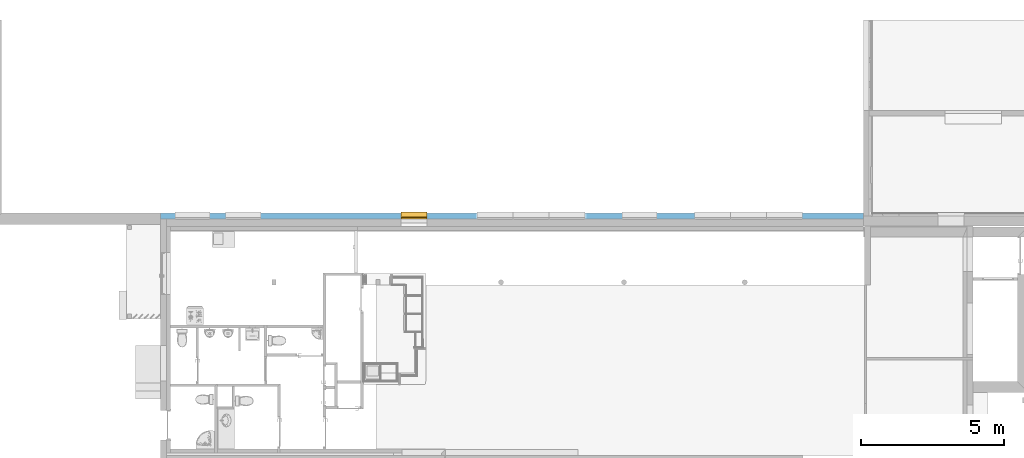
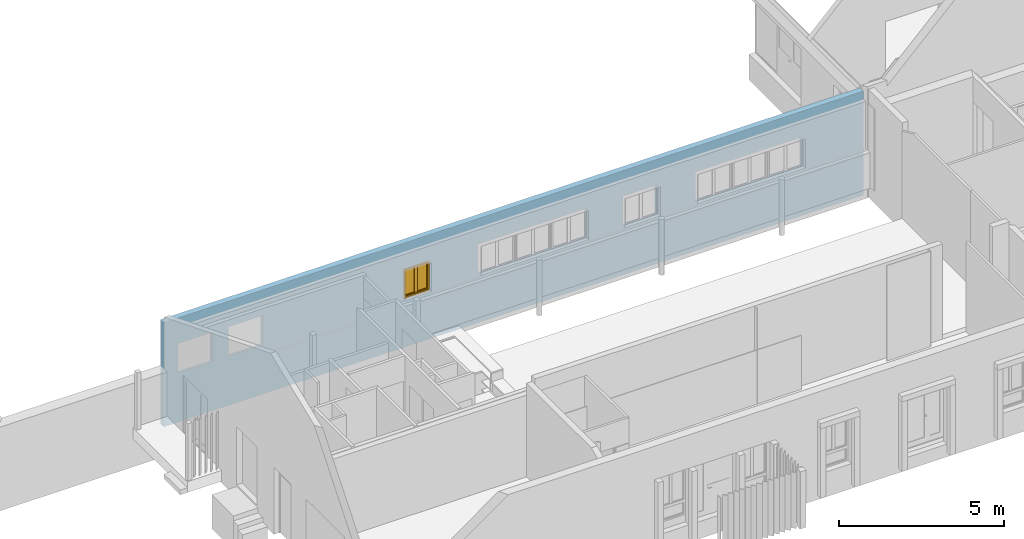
# One storey, part 24 of 34: 1 window, 16 openings, plus 1 element that does not belong to this part.
"""IFC2X3 building model written with IfcOpenShell, lengths in metres."""

from ifc_helpers import new_model, entity, si_unit, converted_unit, derived_unit, money_unit, direction, frame, origin_with_axes, origin_2d_with_axis, place, context, subcontext, project, spatial, polyline, rectangle, outline, extrude, clip, halfspace, open_shell, faceted_brep, surface_model, material, layer, layer_set, layer_usage, type_object, element, fill, save


model = new_model("IFC2X3")

# Units and contexts
model_context = context("Model", 3, precision=1e-05, world=origin_with_axes(), true_north=direction((0.0, 1.0)))
body_context = subcontext(model_context, "Body", "Model", "MODEL_VIEW")
ifc_project = project(units=[si_unit("LENGTHUNIT", "METRE"), si_unit("AREAUNIT", "SQUARE_METRE"), si_unit("VOLUMEUNIT", "CUBIC_METRE"), converted_unit("PLANEANGLEUNIT", "DEGREE", entity("IfcPlaneAngleMeasure", 0.0174532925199), si_unit("PLANEANGLEUNIT", "RADIAN"), dimensions=[0, 0, 0, 0, 0, 0, 0]), money_unit("CHF"), converted_unit("TIMEUNIT", "Year", entity("IfcTimeMeasure", 31556926.0), si_unit("TIMEUNIT", "SECOND"), dimensions=[0, 0, 1, 0, 0, 0, 0]), si_unit("MASSUNIT", "GRAM", prefix="KILO"), si_unit("THERMODYNAMICTEMPERATUREUNIT", "DEGREE_CELSIUS"), si_unit("LUMINOUSINTENSITYUNIT", "LUMEN"), si_unit("ENERGYUNIT", "JOULE", prefix="MEGA"), derived_unit("THERMALCONDUCTANCEUNIT", [(si_unit("POWERUNIT", "WATT"), 1), (si_unit("LENGTHUNIT", "METRE"), -1), (si_unit("THERMODYNAMICTEMPERATUREUNIT", "KELVIN"), -1)]), derived_unit("SPECIFICHEATCAPACITYUNIT", [(si_unit("ENERGYUNIT", "JOULE"), 1), (si_unit("MASSUNIT", "GRAM", prefix="KILO"), -1), (si_unit("THERMODYNAMICTEMPERATUREUNIT", "KELVIN"), -1)]), derived_unit("MASSDENSITYUNIT", [(si_unit("MASSUNIT", "GRAM", prefix="KILO"), 1), (si_unit("VOLUMEUNIT", "CUBIC_METRE"), -1)])], contexts=[model_context])

# Site, building, storey
site_placement = place(None, origin_with_axes())
site = spatial("IfcSite", under=ifc_project, at=site_placement, Name="Site", CompositionType="ELEMENT")
building_placement = place(site_placement, origin_with_axes())
building = spatial("IfcBuilding", under=site, at=building_placement, Name="Bâtiment", CompositionType="ELEMENT")
storey_placement = place(building_placement, origin_with_axes())
storey = spatial("IfcBuildingStorey", under=building, at=storey_placement, Name="RDC", CompositionType="ELEMENT", Elevation=-5.32907e-15)

# Wall, openings, window
ifc_material = material(Name="Diagonales 1167258944")
ifc_layer = layer(ifc_material, 0.2, ventilated="UNKNOWN")
ifc_layer_set = layer_set([ifc_layer], Name="Diagonales 1167258944 0.2")
ifc_layer_usage = layer_usage(ifc_layer_set, "AXIS2", "NEGATIVE", 0.0)
wall_type = type_object("IfcWallType", Name="Diagonales 1167258944 200", PredefinedType="NOTDEFINED")
wall_placement = place(storey_placement, frame((1667.41729001, 190.70004191, -0.0599999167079), z_axis=(0.0, 0.0, 1.0), x_axis=(1.0, 0.0, 0.0)))
wall = element("IfcWallStandardCase", 1, at=wall_placement, inside=storey, type_object=wall_type, material=ifc_layer_usage, Name="Mur-002", context=body_context, shape_type="Clipping", body=[
    clip(extrude(outline(polyline([(0.0, -0.2), (24.52, -0.2), (24.52, 0.0), (0.0, 0.0), (0.0, -0.2)])), origin_with_axes(), (0.0, 0.0, 1.0), 3.86), halfspace(frame((0.0, 1.37507086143, 3.43767715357), z_axis=(0.0, -0.371390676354, -0.928476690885), x_axis=(0.0, 0.928476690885, -0.371390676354)), True)),
])
opening_1_placement = place(wall_placement, frame((2.885, 0.0, 1.82999991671), z_axis=(0.0, 0.0, 1.0), x_axis=(1.0, 0.0, 0.0)))
element("IfcOpeningElement", 2, at=opening_1_placement, cuts=wall, Name="Fen-003", context=body_context, shape_type="SweptSolid", body=[
    extrude(rectangle(XDim=1.23, YDim=1.08, at=origin_2d_with_axis()), frame((0.0, -0.15, 0.54), z_axis=(0.0, -1.0, 0.0), x_axis=(-1.0, 0.0, 0.0)), (0.0, 0.0, -1.0), 0.35),
    extrude(rectangle(XDim=1.23, YDim=1.08, at=origin_2d_with_axis()), frame((0.0, -0.15, 0.54), z_axis=(0.0, 1.0, 0.0), x_axis=(-1.0, 0.0, 0.0)), (0.0, 0.0, -1.0), 0.25),
    extrude(rectangle(XDim=1.23, YDim=0.1, at=origin_2d_with_axis()), frame((0.0, -0.185, -0.05), z_axis=(0.0, -1.0, 0.0), x_axis=(-1.0, 0.0, 0.0)), (0.0, 0.0, -1.0), 0.235),
])
opening_2_placement = place(wall_placement, frame((11.625, 0.0, 1.82999991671), z_axis=(0.0, 0.0, 1.0), x_axis=(1.0, 0.0, 0.0)))
element("IfcOpeningElement", 3, at=opening_2_placement, cuts=wall, Name="Fen-003", context=body_context, shape_type="SweptSolid", body=[
    extrude(rectangle(XDim=1.23, YDim=1.08, at=origin_2d_with_axis()), frame((0.0, -0.15, 0.54), z_axis=(0.0, -1.0, 0.0), x_axis=(-1.0, 0.0, 0.0)), (0.0, 0.0, -1.0), 0.35),
    extrude(rectangle(XDim=1.23, YDim=1.08, at=origin_2d_with_axis()), frame((0.0, -0.15, 0.54), z_axis=(0.0, 1.0, 0.0), x_axis=(-1.0, 0.0, 0.0)), (0.0, 0.0, -1.0), 0.25),
    extrude(rectangle(XDim=1.23, YDim=0.1, at=origin_2d_with_axis()), frame((0.0, -0.185, -0.05), z_axis=(0.0, -1.0, 0.0), x_axis=(-1.0, 0.0, 0.0)), (0.0, 0.0, -1.0), 0.235),
])
opening_3_placement = place(wall_placement, frame((14.2023151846, 0.0, 1.82999991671), z_axis=(0.0, 0.0, 1.0), x_axis=(1.0, 0.0, 0.0)))
element("IfcOpeningElement", 4, at=opening_3_placement, cuts=wall, Name="Fen-004", context=body_context, shape_type="SweptSolid", body=[
    extrude(rectangle(XDim=1.30821012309, YDim=1.08, at=origin_2d_with_axis()), frame((0.0, -0.15, 0.54), z_axis=(0.0, -1.0, 0.0), x_axis=(-1.0, 0.0, 0.0)), (0.0, 0.0, -1.0), 0.35),
    extrude(rectangle(XDim=1.30821012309, YDim=1.08, at=origin_2d_with_axis()), frame((0.0, -0.15, 0.54), z_axis=(0.0, 1.0, 0.0), x_axis=(-1.0, 0.0, 0.0)), (0.0, 0.0, -1.0), 0.25),
    extrude(rectangle(XDim=1.30821012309, YDim=0.1, at=origin_2d_with_axis()), frame((0.0, -0.185, -0.05), z_axis=(0.0, -1.0, 0.0), x_axis=(-1.0, 0.0, 0.0)), (0.0, 0.0, -1.0), 0.235),
])
opening_4_placement = place(wall_placement, frame((16.705, 0.0, 1.82999991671), z_axis=(0.0, 0.0, 1.0), x_axis=(1.0, 0.0, 0.0)))
element("IfcOpeningElement", 5, at=opening_4_placement, cuts=wall, Name="Fen-005", context=body_context, shape_type="SweptSolid", body=[
    extrude(rectangle(XDim=1.23, YDim=1.08, at=origin_2d_with_axis()), frame((0.0, -0.15, 0.54), z_axis=(0.0, -1.0, 0.0), x_axis=(-1.0, 0.0, 0.0)), (0.0, 0.0, -1.0), 0.35),
    extrude(rectangle(XDim=1.23, YDim=1.08, at=origin_2d_with_axis()), frame((0.0, -0.15, 0.54), z_axis=(0.0, 1.0, 0.0), x_axis=(-1.0, 0.0, 0.0)), (0.0, 0.0, -1.0), 0.25),
    extrude(rectangle(XDim=1.23, YDim=0.1, at=origin_2d_with_axis()), frame((0.0, -0.185, -0.05), z_axis=(0.0, -1.0, 0.0), x_axis=(-1.0, 0.0, 0.0)), (0.0, 0.0, -1.0), 0.235),
])
opening_5_placement = place(wall_placement, frame((19.245, 0.0, 1.83999991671), z_axis=(0.0, 0.0, 1.0), x_axis=(1.0, 0.0, 0.0)))
element("IfcOpeningElement", 6, at=opening_5_placement, cuts=wall, Name="Fen-006", context=body_context, shape_type="SweptSolid", body=[
    extrude(rectangle(XDim=1.23, YDim=1.08, at=origin_2d_with_axis()), frame((0.0, -0.15, 0.54), z_axis=(0.0, -1.0, 0.0), x_axis=(-1.0, 0.0, 0.0)), (0.0, 0.0, -1.0), 0.35),
    extrude(rectangle(XDim=1.23, YDim=1.08, at=origin_2d_with_axis()), frame((0.0, -0.15, 0.54), z_axis=(0.0, 1.0, 0.0), x_axis=(-1.0, 0.0, 0.0)), (0.0, 0.0, -1.0), 0.25),
    extrude(rectangle(XDim=1.23, YDim=0.1, at=origin_2d_with_axis()), frame((0.0, -0.185, -0.05), z_axis=(0.0, -1.0, 0.0), x_axis=(-1.0, 0.0, 0.0)), (0.0, 0.0, -1.0), 0.235),
])
opening_6_placement = place(wall_placement, frame((21.785, 0.0, 1.82999991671), z_axis=(0.0, 0.0, 1.0), x_axis=(1.0, 0.0, 0.0)))
element("IfcOpeningElement", 7, at=opening_6_placement, cuts=wall, Name="Fen-007", context=body_context, shape_type="SweptSolid", body=[
    extrude(rectangle(XDim=1.23, YDim=1.08, at=origin_2d_with_axis()), frame((0.0, -0.15, 0.54), z_axis=(0.0, -1.0, 0.0), x_axis=(-1.0, 0.0, 0.0)), (0.0, 0.0, -1.0), 0.35),
    extrude(rectangle(XDim=1.23, YDim=1.08, at=origin_2d_with_axis()), frame((0.0, -0.15, 0.54), z_axis=(0.0, 1.0, 0.0), x_axis=(-1.0, 0.0, 0.0)), (0.0, 0.0, -1.0), 0.25),
    extrude(rectangle(XDim=1.23, YDim=0.1, at=origin_2d_with_axis()), frame((0.0, -0.185, -0.05), z_axis=(0.0, -1.0, 0.0), x_axis=(-1.0, 0.0, 0.0)), (0.0, 0.0, -1.0), 0.235),
])
opening_7_placement = place(wall_placement, frame((1.115, 0.0, 1.82999991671), z_axis=(0.0, 0.0, 1.0), x_axis=(1.0, 0.0, 0.0)))
element("IfcOpeningElement", 8, at=opening_7_placement, cuts=wall, Name="Fen-003", context=body_context, shape_type="SweptSolid", body=[
    extrude(rectangle(XDim=1.23, YDim=1.08, at=origin_2d_with_axis()), frame((0.0, -0.15, 0.54), z_axis=(0.0, -1.0, 0.0), x_axis=(-1.0, 0.0, 0.0)), (0.0, 0.0, -1.0), 0.35),
    extrude(rectangle(XDim=1.23, YDim=1.08, at=origin_2d_with_axis()), frame((0.0, -0.15, 0.54), z_axis=(0.0, 1.0, 0.0), x_axis=(-1.0, 0.0, 0.0)), (0.0, 0.0, -1.0), 0.25),
    extrude(rectangle(XDim=1.23, YDim=0.1, at=origin_2d_with_axis()), frame((0.0, -0.185, -0.05), z_axis=(0.0, -1.0, 0.0), x_axis=(-1.0, 0.0, 0.0)), (0.0, 0.0, -1.0), 0.235),
])
opening_8_placement = place(wall_placement, frame((12.9249202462, 0.0, 1.82999991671), z_axis=(0.0, 0.0, 1.0), x_axis=(1.0, 0.0, 0.0)))
element("IfcOpeningElement", 9, at=opening_8_placement, cuts=wall, Name="Fen-003", context=body_context, shape_type="SweptSolid", body=[
    extrude(rectangle(XDim=1.257, YDim=1.08, at=origin_2d_with_axis()), frame((0.0, -0.15, 0.54), z_axis=(0.0, -1.0, 0.0), x_axis=(-1.0, 0.0, 0.0)), (0.0, 0.0, -1.0), 0.35),
    extrude(rectangle(XDim=1.257, YDim=1.08, at=origin_2d_with_axis()), frame((0.0, -0.15, 0.54), z_axis=(0.0, 1.0, 0.0), x_axis=(-1.0, 0.0, 0.0)), (0.0, 0.0, -1.0), 0.25),
    extrude(rectangle(XDim=1.257, YDim=0.1, at=origin_2d_with_axis()), frame((0.0, -0.185, -0.05), z_axis=(0.0, -1.0, 0.0), x_axis=(-1.0, 0.0, 0.0)), (0.0, 0.0, -1.0), 0.235),
])
opening_9_placement = place(wall_placement, frame((20.5155, 0.0, 1.82999991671), z_axis=(0.0, 0.0, 1.0), x_axis=(1.0, 0.0, 0.0)))
element("IfcOpeningElement", 10, at=opening_9_placement, cuts=wall, Name="Fen-003", context=body_context, shape_type="SweptSolid", body=[
    extrude(rectangle(XDim=1.257, YDim=1.08, at=origin_2d_with_axis()), frame((0.0, -0.15, 0.54), z_axis=(0.0, -1.0, 0.0), x_axis=(-1.0, 0.0, 0.0)), (0.0, 0.0, -1.0), 0.35),
    extrude(rectangle(XDim=1.257, YDim=1.08, at=origin_2d_with_axis()), frame((0.0, -0.15, 0.54), z_axis=(0.0, 1.0, 0.0), x_axis=(-1.0, 0.0, 0.0)), (0.0, 0.0, -1.0), 0.25),
    extrude(rectangle(XDim=1.257, YDim=0.1, at=origin_2d_with_axis()), frame((0.0, -0.185, -0.05), z_axis=(0.0, -1.0, 0.0), x_axis=(-1.0, 0.0, 0.0)), (0.0, 0.0, -1.0), 0.235),
])
opening_10_placement = place(wall_placement, frame((14.1819202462, 0.0, 1.82999991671), z_axis=(0.0, 0.0, 1.0), x_axis=(1.0, 0.0, 0.0)))
element("IfcOpeningElement", 11, at=opening_10_placement, cuts=wall, Name="Fen-003", context=body_context, shape_type="SweptSolid", body=[
    extrude(rectangle(XDim=1.257, YDim=1.08, at=origin_2d_with_axis()), frame((0.0, -0.15, 0.54), z_axis=(0.0, -1.0, 0.0), x_axis=(-1.0, 0.0, 0.0)), (0.0, 0.0, -1.0), 0.35),
    extrude(rectangle(XDim=1.257, YDim=1.08, at=origin_2d_with_axis()), frame((0.0, -0.15, 0.54), z_axis=(0.0, 1.0, 0.0), x_axis=(-1.0, 0.0, 0.0)), (0.0, 0.0, -1.0), 0.25),
    extrude(rectangle(XDim=1.257, YDim=0.1, at=origin_2d_with_axis()), frame((0.0, -0.185, -0.05), z_axis=(0.0, -1.0, 0.0), x_axis=(-1.0, 0.0, 0.0)), (0.0, 0.0, -1.0), 0.235),
])
opening_11_placement = place(wall_placement, frame((11.6679202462, 0.0, 1.82999991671), z_axis=(0.0, 0.0, 1.0), x_axis=(1.0, 0.0, 0.0)))
element("IfcOpeningElement", 12, at=opening_11_placement, cuts=wall, Name="Fen-003", context=body_context, shape_type="SweptSolid", body=[
    extrude(rectangle(XDim=1.257, YDim=1.08, at=origin_2d_with_axis()), frame((0.0, -0.15, 0.54), z_axis=(0.0, -1.0, 0.0), x_axis=(-1.0, 0.0, 0.0)), (0.0, 0.0, -1.0), 0.35),
    extrude(rectangle(XDim=1.257, YDim=1.08, at=origin_2d_with_axis()), frame((0.0, -0.15, 0.54), z_axis=(0.0, 1.0, 0.0), x_axis=(-1.0, 0.0, 0.0)), (0.0, 0.0, -1.0), 0.25),
    extrude(rectangle(XDim=1.257, YDim=0.1, at=origin_2d_with_axis()), frame((0.0, -0.185, -0.05), z_axis=(0.0, -1.0, 0.0), x_axis=(-1.0, 0.0, 0.0)), (0.0, 0.0, -1.0), 0.235),
])
opening_12_placement = place(wall_placement, frame((21.7725, 0.0, 1.82999991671), z_axis=(0.0, 0.0, 1.0), x_axis=(1.0, 0.0, 0.0)))
element("IfcOpeningElement", 13, at=opening_12_placement, cuts=wall, Name="Fen-003", context=body_context, shape_type="SweptSolid", body=[
    extrude(rectangle(XDim=1.257, YDim=1.08, at=origin_2d_with_axis()), frame((0.0, -0.15, 0.54), z_axis=(0.0, -1.0, 0.0), x_axis=(-1.0, 0.0, 0.0)), (0.0, 0.0, -1.0), 0.35),
    extrude(rectangle(XDim=1.257, YDim=1.08, at=origin_2d_with_axis()), frame((0.0, -0.15, 0.54), z_axis=(0.0, 1.0, 0.0), x_axis=(-1.0, 0.0, 0.0)), (0.0, 0.0, -1.0), 0.25),
    extrude(rectangle(XDim=1.257, YDim=0.1, at=origin_2d_with_axis()), frame((0.0, -0.185, -0.05), z_axis=(0.0, -1.0, 0.0), x_axis=(-1.0, 0.0, 0.0)), (0.0, 0.0, -1.0), 0.235),
])
opening_13_placement = place(wall_placement, frame((19.2585, 0.0, 1.82999991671), z_axis=(0.0, 0.0, 1.0), x_axis=(1.0, 0.0, 0.0)))
element("IfcOpeningElement", 14, at=opening_13_placement, cuts=wall, Name="Fen-003", context=body_context, shape_type="SweptSolid", body=[
    extrude(rectangle(XDim=1.257, YDim=1.08, at=origin_2d_with_axis()), frame((0.0, -0.15, 0.54), z_axis=(0.0, -1.0, 0.0), x_axis=(-1.0, 0.0, 0.0)), (0.0, 0.0, -1.0), 0.35),
    extrude(rectangle(XDim=1.257, YDim=1.08, at=origin_2d_with_axis()), frame((0.0, -0.15, 0.54), z_axis=(0.0, 1.0, 0.0), x_axis=(-1.0, 0.0, 0.0)), (0.0, 0.0, -1.0), 0.25),
    extrude(rectangle(XDim=1.257, YDim=0.1, at=origin_2d_with_axis()), frame((0.0, -0.185, -0.05), z_axis=(0.0, -1.0, 0.0), x_axis=(-1.0, 0.0, 0.0)), (0.0, 0.0, -1.0), 0.235),
])
opening_14_placement = place(wall_placement, frame((8.84769470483, 0.0, 1.82999991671), z_axis=(0.0, 0.0, 1.0), x_axis=(1.0, 0.0, 0.0)))
opening_14 = element("IfcOpeningElement", 15, at=opening_14_placement, cuts=wall, Name="Fen-003", context=body_context, shape_type="SweptSolid", body=[
    extrude(rectangle(XDim=0.91, YDim=1.08, at=origin_2d_with_axis()), frame((0.0, -0.15, 0.54), z_axis=(0.0, 1.0, 0.0), x_axis=(-1.0, 0.0, 0.0)), (0.0, 0.0, 1.0), 0.35),
    extrude(rectangle(XDim=0.91, YDim=1.08, at=origin_2d_with_axis()), frame((0.0, -0.15, 0.54), z_axis=(0.0, -1.0, 0.0), x_axis=(-1.0, 0.0, 0.0)), (0.0, 0.0, 1.0), 0.25),
    extrude(rectangle(XDim=0.91, YDim=0.1, at=origin_2d_with_axis()), frame((0.0, -0.185, -0.05), z_axis=(0.0, 1.0, 0.0), x_axis=(-1.0, 0.0, 0.0)), (0.0, 0.0, 1.0), 0.235),
])
opening_15_placement = place(wall_placement, frame((8.84769470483, 0.0, 1.77), z_axis=(0.0, 0.0, 1.0), x_axis=(1.0, 0.0, 0.0)))
element("IfcOpeningElement", 16, at=opening_15_placement, cuts=wall, Name="Por-005", context=body_context, shape_type="SweptSolid", body=[
    extrude(rectangle(XDim=0.91, YDim=1.1, at=origin_2d_with_axis()), frame((0.0, -0.1, 0.55), z_axis=(0.0, 1.0, 0.0), x_axis=(-1.0, 0.0, 0.0)), (0.0, 0.0, 1.0), 0.3),
    extrude(rectangle(XDim=0.91, YDim=1.1, at=origin_2d_with_axis()), frame((0.0, -0.1, 0.55), z_axis=(0.0, -1.0, 0.0), x_axis=(-1.0, 0.0, 0.0)), (0.0, 0.0, 1.0), 0.3),
])
opening_16_placement = place(wall_placement, frame((8.84769470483, 0.0, 1.77), z_axis=(0.0, 0.0, 1.0), x_axis=(1.0, 0.0, 0.0)))
element("IfcOpeningElement", 17, at=opening_16_placement, cuts=wall, Name="Por-005", context=body_context, shape_type="SweptSolid", body=[
    extrude(rectangle(XDim=0.91, YDim=1.1, at=origin_2d_with_axis()), frame((0.0, -0.1, 0.55), z_axis=(0.0, -1.0, 0.0), x_axis=(1.0, 0.0, 0.0)), (0.0, 0.0, -1.0), 0.3),
    extrude(rectangle(XDim=0.91, YDim=1.1, at=origin_2d_with_axis()), frame((0.0, -0.1, 0.55), z_axis=(0.0, 1.0, 0.0), x_axis=(1.0, 0.0, 0.0)), (0.0, 0.0, -1.0), 0.3),
])
window_style = type_object("IfcWindowStyle", Name="Fenêtre châssis double 25", ConstructionType="NOTDEFINED", OperationType="DOUBLE_PANEL_VERTICAL", ParameterTakesPrecedence=False, Sizeable=False)
window_placement = place(opening_14_placement, frame((-0.455, 0.0, 0.0), z_axis=(0.0, 0.0, 1.0), x_axis=(1.0, 0.0, 0.0)))
window = element("IfcWindow", 18, at=window_placement, inside=storey, type_object=window_style, Name="Fen-003", OverallHeight=1.08, OverallWidth=0.91, context=body_context, shape_type="SurfaceModel", body=[
    faceted_brep([(0.91, -0.185, 0.0), (0.91, -0.175, 0.0), (0.0, -0.175, 0.0), (0.0, -0.185, 0.0), (0.91, -0.185, -0.1), (0.91, 0.045, -0.1), (0.91, 0.045, -0.01), (0.91, -0.175, -0.01), (0.0, -0.175, -0.01), (0.0, 0.045, -0.01), (0.0, 0.045, -0.1), (0.0, -0.185, -0.1)], [[[0, 1, 2, 3]], [[0, 4, 5, 6, 7, 1]], [[1, 7, 8, 2]], [[3, 2, 8, 9, 10, 11]], [[4, 0, 3, 11]], [[5, 4, 11, 10]], [[6, 5, 10, 9]], [[7, 6, 9, 8]]]),
    faceted_brep([(0.885, -0.15, 1.03), (0.885, -0.175, 1.03), (0.86, -0.175, 1.03), (0.86, -0.2, 1.03), (0.91, -0.2, 1.03), (0.91, -0.15, 1.03), (0.885, -0.15, 0.05), (0.885, -0.175, 0.05), (0.86, -0.175, 0.05), (0.86, -0.2, 0.05), (0.91, -0.2, 0.05), (0.91, -0.15, 0.05)], [[[0, 1, 2, 3, 4, 5]], [[1, 0, 6, 7]], [[8, 2, 1, 7]], [[2, 8, 9, 3]], [[4, 3, 9, 10]], [[5, 4, 10, 11]], [[6, 0, 5, 11]], [[7, 6, 11, 10, 9, 8]]]),
    faceted_brep([(0.05, -0.175, 1.03), (0.025, -0.175, 1.03), (0.025, -0.15, 1.03), (0.0, -0.15, 1.03), (0.0, -0.2, 1.03), (0.05, -0.2, 1.03), (0.05, -0.175, 0.05), (0.025, -0.175, 0.05), (0.025, -0.15, 0.05), (0.0, -0.15, 0.05), (0.0, -0.2, 0.05), (0.05, -0.2, 0.05)], [[[0, 1, 2, 3, 4, 5]], [[1, 0, 6, 7]], [[8, 2, 1, 7]], [[2, 8, 9, 3]], [[9, 10, 4, 3]], [[10, 11, 5, 4]], [[6, 0, 5, 11]], [[7, 6, 11, 10, 9, 8]]]),
    faceted_brep([(0.05, -0.175, 0.05), (0.025, -0.175, 0.05), (0.025, -0.15, 0.05), (0.0, -0.15, 0.05), (0.0, -0.2, 0.05), (0.05, -0.2, 0.05), (0.86, -0.175, 0.05), (0.885, -0.175, 0.05), (0.885, -0.175, 0.025), (0.025, -0.175, 0.025), (0.025, -0.15, 0.025), (0.885, -0.15, 0.025), (0.885, -0.15, 0.05), (0.91, -0.15, 0.05), (0.91, -0.15, 0.0), (0.0, -0.15, 0.0), (0.0, -0.2, 0.0), (0.91, -0.2, 0.05), (0.86, -0.2, 0.05), (0.91, -0.2, 0.0)], [[[0, 1, 2, 3, 4, 5]], [[1, 0, 6, 7, 8, 9]], [[10, 2, 1, 9]], [[11, 12, 13, 14, 15, 3, 2, 10]], [[15, 16, 4, 3]], [[17, 18, 5, 4, 16, 19]], [[6, 0, 5, 18]], [[7, 6, 18, 17, 13, 12]], [[7, 12, 11, 8]], [[11, 10, 9, 8]], [[13, 17, 19, 14]], [[14, 19, 16, 15]]]),
    faceted_brep([(0.885, -0.15, 1.03), (0.885, -0.15, 1.055), (0.025, -0.15, 1.055), (0.025, -0.15, 1.03), (0.0, -0.15, 1.03), (0.0, -0.15, 1.08), (0.91, -0.15, 1.08), (0.91, -0.15, 1.03), (0.885, -0.175, 1.03), (0.885, -0.175, 1.055), (0.025, -0.175, 1.055), (0.025, -0.175, 1.03), (0.05, -0.175, 1.03), (0.05, -0.2, 1.03), (0.0, -0.2, 1.03), (0.0, -0.2, 1.08), (0.91, -0.2, 1.08), (0.91, -0.2, 1.03), (0.86, -0.2, 1.03), (0.86, -0.175, 1.03)], [[[0, 1, 2, 3, 4, 5, 6, 7]], [[1, 0, 8, 9]], [[2, 1, 9, 10]], [[3, 2, 10, 11]], [[11, 12, 13, 14, 4, 3]], [[4, 14, 15, 5]], [[5, 15, 16, 6]], [[6, 16, 17, 7]], [[8, 0, 7, 17, 18, 19]], [[12, 11, 10, 9, 8, 19]], [[12, 19, 18, 13]], [[14, 13, 18, 17, 16, 15]]]),
    faceted_brep([(0.835, -0.175, 1.005), (0.885, -0.175, 1.005), (0.885, -0.125, 1.005), (0.835, -0.125, 1.005), (0.835, -0.175, 0.075), (0.885, -0.175, 0.075), (0.885, -0.125, 0.075), (0.835, -0.125, 0.075)], [[[0, 1, 2, 3]], [[0, 4, 5, 1]], [[1, 5, 6, 2]], [[3, 2, 6, 7]], [[4, 0, 3, 7]], [[5, 4, 7, 6]]]),
    faceted_brep([(0.505, -0.175, 0.075), (0.455, -0.175, 0.075), (0.455, -0.125, 0.075), (0.505, -0.125, 0.075), (0.505, -0.175, 1.005), (0.455, -0.175, 1.005), (0.455, -0.125, 1.005), (0.505, -0.125, 1.005)], [[[0, 1, 2, 3]], [[0, 4, 5, 1]], [[1, 5, 6, 2]], [[3, 2, 6, 7]], [[4, 0, 3, 7]], [[5, 4, 7, 6]]]),
    faceted_brep([(0.455, -0.175, 0.025), (0.455, -0.175, 0.075), (0.455, -0.125, 0.075), (0.455, -0.125, 0.025), (0.885, -0.175, 0.025), (0.885, -0.175, 0.075), (0.835, -0.175, 0.075), (0.505, -0.175, 0.075), (0.505, -0.125, 0.075), (0.835, -0.125, 0.075), (0.885, -0.125, 0.075), (0.885, -0.125, 0.025)], [[[0, 1, 2, 3]], [[0, 4, 5, 6, 7, 1]], [[1, 7, 8, 2]], [[3, 2, 8, 9, 10, 11]], [[4, 0, 3, 11]], [[5, 4, 11, 10]], [[6, 5, 10, 9]], [[7, 6, 9, 8]]]),
    faceted_brep([(0.885, -0.175, 1.055), (0.885, -0.175, 1.005), (0.885, -0.125, 1.005), (0.885, -0.125, 1.055), (0.455, -0.175, 1.055), (0.455, -0.175, 1.005), (0.505, -0.175, 1.005), (0.835, -0.175, 1.005), (0.835, -0.125, 1.005), (0.505, -0.125, 1.005), (0.455, -0.125, 1.005), (0.455, -0.125, 1.055)], [[[0, 1, 2, 3]], [[0, 4, 5, 6, 7, 1]], [[1, 7, 8, 2]], [[3, 2, 8, 9, 10, 11]], [[4, 0, 3, 11]], [[5, 4, 11, 10]], [[6, 5, 10, 9]], [[7, 6, 9, 8]]]),
    surface_model("IfcShellBasedSurfaceModel", [(0.835, -0.16, 0.075), (0.835, -0.16, 1.005), (0.505, -0.16, 1.005), (0.505, -0.16, 0.075)], [open_shell([[[0, 1, 2, 3]]])]),
    surface_model("IfcShellBasedSurfaceModel", [(0.835, -0.14, 0.075), (0.505, -0.14, 0.075), (0.505, -0.14, 1.005), (0.835, -0.14, 1.005)], [open_shell([[[0, 1, 2, 3]]])]),
    faceted_brep([(0.405, -0.175, 1.005), (0.455, -0.175, 1.005), (0.455, -0.125, 1.005), (0.405, -0.125, 1.005), (0.405, -0.175, 0.075), (0.455, -0.175, 0.075), (0.455, -0.125, 0.075), (0.405, -0.125, 0.075)], [[[0, 1, 2, 3]], [[0, 4, 5, 1]], [[1, 5, 6, 2]], [[3, 2, 6, 7]], [[4, 0, 3, 7]], [[5, 4, 7, 6]]]),
    faceted_brep([(0.075, -0.175, 0.075), (0.025, -0.175, 0.075), (0.025, -0.125, 0.075), (0.075, -0.125, 0.075), (0.075, -0.175, 1.005), (0.025, -0.175, 1.005), (0.025, -0.125, 1.005), (0.075, -0.125, 1.005)], [[[0, 1, 2, 3]], [[0, 4, 5, 1]], [[1, 5, 6, 2]], [[3, 2, 6, 7]], [[4, 0, 3, 7]], [[5, 4, 7, 6]]]),
    faceted_brep([(0.025, -0.175, 0.025), (0.025, -0.175, 0.075), (0.025, -0.125, 0.075), (0.025, -0.125, 0.025), (0.455, -0.175, 0.025), (0.455, -0.175, 0.075), (0.405, -0.175, 0.075), (0.075, -0.175, 0.075), (0.075, -0.125, 0.075), (0.405, -0.125, 0.075), (0.455, -0.125, 0.075), (0.455, -0.125, 0.025)], [[[0, 1, 2, 3]], [[0, 4, 5, 6, 7, 1]], [[1, 7, 8, 2]], [[3, 2, 8, 9, 10, 11]], [[4, 0, 3, 11]], [[5, 4, 11, 10]], [[6, 5, 10, 9]], [[7, 6, 9, 8]]]),
    faceted_brep([(0.455, -0.175, 1.055), (0.455, -0.175, 1.005), (0.455, -0.125, 1.005), (0.455, -0.125, 1.055), (0.025, -0.175, 1.055), (0.025, -0.175, 1.005), (0.075, -0.175, 1.005), (0.405, -0.175, 1.005), (0.405, -0.125, 1.005), (0.075, -0.125, 1.005), (0.025, -0.125, 1.005), (0.025, -0.125, 1.055)], [[[0, 1, 2, 3]], [[0, 4, 5, 6, 7, 1]], [[1, 7, 8, 2]], [[3, 2, 8, 9, 10, 11]], [[4, 0, 3, 11]], [[5, 4, 11, 10]], [[6, 5, 10, 9]], [[7, 6, 9, 8]]]),
    surface_model("IfcShellBasedSurfaceModel", [(0.405, -0.16, 0.075), (0.405, -0.16, 1.005), (0.075, -0.16, 1.005), (0.075, -0.16, 0.075)], [open_shell([[[0, 1, 2, 3]]])]),
    surface_model("IfcShellBasedSurfaceModel", [(0.405, -0.14, 0.075), (0.075, -0.14, 0.075), (0.075, -0.14, 1.005), (0.405, -0.14, 1.005)], [open_shell([[[0, 1, 2, 3]]])]),
])
fill(opening_14, window)

save(model, "model.ifc")
